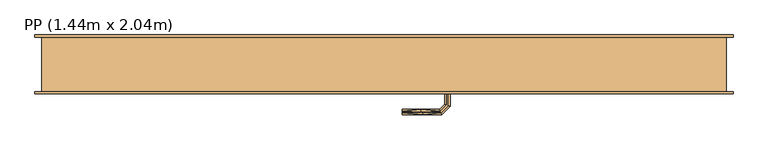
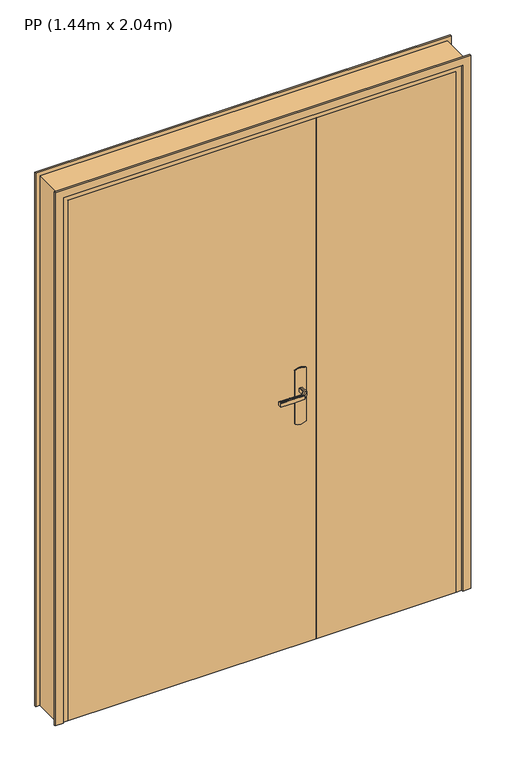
"""IFC4 building model written with IfcOpenShell, lengths in millimetres: door geometry, PP (1.44m x 2.04m)."""

from ifc_helpers import new_model, si_unit, frame, origin, origin_with_axes, place, context, project, spatial, polyline, outline, extrude, faceted_brep, source, transform, mapped, element, save


def pp_1_44m_x_2_04m_0dcc9849(model_context):
    return source(origin(), model_context, "Body", "SolidModel", [
        extrude(outline(polyline([(0.0, -15.0), (0.0, 15.0), (2060.0, 15.0), (2060.0, 1495.0), (0.0, 1495.0), (0.0, 1525.0), (2090.0, 1525.0), (2090.0, -15.0), (0.0, -15.0)])), frame((0.0, -5.0, 0.0), z_axis=(0.0, 1.0, 0.0), x_axis=(0.0, 0.0, 1.0)), (0.0, 0.0, 1.0), 5.0),
        faceted_brep([(892.9747013, 45.0, 992.2195592), (897.0252987, 45.0, 992.2195592), (901.0, 45.0, 993.0), (901.0, 45.0, 1007.0), (897.0252987, 45.0, 1007.7804408), (892.9747013, 45.0, 1007.7804408), (889.0, 45.0, 1007.0), (889.0, 45.0, 993.0), (889.0, 67.4852045, 1007.0), (889.0, 67.4852045, 993.0), (892.9747013, 69.1315797, 1007.7804408), (897.0252987, 70.8093921, 1007.7804408), (880.8389062, 86.9957845, 1007.7804408), (879.1610938, 82.9451872, 1007.7804408), (901.0, 72.4557673, 1007.0), (901.0, 72.4557673, 993.0), (897.0252987, 70.8093921, 992.2195592), (892.9747013, 69.1315797, 992.2195592), (879.1610938, 82.9451872, 992.2195592), (880.8389062, 86.9957845, 992.2195592), (877.5147186, 78.9704859, 1007.0), (877.5147186, 78.9704859, 993.0), (882.4852814, 90.9704859, 1007.0), (882.4852814, 90.9704859, 993.0), (794.9542163, 82.9451872, 1007.7804408), (794.9542163, 86.9957845, 1007.7804408), (794.9542163, 90.9704859, 1007.0), (794.9542163, 90.9704859, 993.0), (794.9542163, 86.9957845, 992.2195592), (794.9542163, 82.9451872, 992.2195592), (794.9542163, 78.9704859, 993.0), (794.9542163, 78.9704859, 1007.0), (836.2344675, 78.9704859, 1007.0), (836.2344794, 78.9704859, 993.0), (837.0576551, 84.9704859, 1007.8786868), (842.5547942, 90.9704859, 1007.0), (842.5547957, 90.9704859, 993.0), (837.0576549, 84.9704858, 992.1213132)], [[[0, 1, 2, 3, 4, 5, 6, 7]], [[8, 9, 7, 6]], [[5, 10, 8, 6]], [[5, 4, 11, 12, 13, 10]], [[3, 14, 11, 4]], [[14, 3, 2, 15]], [[2, 1, 16, 15]], [[1, 0, 17, 18, 19, 16]], [[0, 7, 9, 17]], [[20, 21, 9, 8]], [[8, 10, 13, 20]], [[14, 22, 12, 11]], [[23, 22, 14, 15]], [[15, 16, 19, 23]], [[17, 9, 21, 18]], [[24, 25, 26, 27, 28, 29, 30, 31]], [[21, 20, 32, 31, 30, 33]], [[34, 24, 32]], [[25, 34, 35]], [[13, 32, 20]], [[24, 31, 32]], [[25, 35, 26]], [[35, 12, 22]], [[34, 12, 35]], [[34, 13, 12]], [[34, 32, 13]], [[24, 34, 25]], [[22, 23, 36, 27, 26, 35]], [[37, 28, 36]], [[36, 28, 27]], [[36, 23, 19]], [[18, 33, 37]], [[33, 18, 21]], [[30, 29, 33]], [[37, 29, 28]], [[37, 33, 29]], [[37, 36, 19]], [[18, 37, 19]]]),
        extrude(outline(polyline([(0.0, -15.0), (0.0, 15.0), (2060.0, 15.0), (2060.0, 1495.0), (0.0, 1495.0), (0.0, 1525.0), (2090.0, 1525.0), (2090.0, -15.0), (0.0, -15.0)])), frame((0.0, 120.0, 0.0), z_axis=(0.0, 1.0, 0.0), x_axis=(0.0, 0.0, 1.0)), (0.0, 0.0, 1.0), 5.0),
        faceted_brep([(0.0, 0.0, 0.0), (0.0, 120.0, 0.0), (50.0, 120.0, 0.0), (50.0, 40.0, 0.0), (35.0, 40.0, 0.0), (35.0, 0.0, 0.0), (0.0, 0.0, 2075.0), (0.0, 120.0, 2075.0), (1510.0, 120.0, 2075.0), (1510.0, 120.0, 0.0), (1460.0, 120.0, 0.0), (1460.0, 120.0, 2025.0), (50.0, 120.0, 2025.0), (50.0, 40.0, 2025.0), (1460.0, 40.0, 2025.0), (1460.0, 40.0, 0.0), (1475.0, 40.0, 0.0), (1475.0, 40.0, 2040.0), (35.0, 40.0, 2040.0), (35.0, 0.0, 2040.0), (1475.0, 0.0, 2040.0), (1475.0, 0.0, 0.0), (1510.0, 0.0, 0.0), (1510.0, 0.0, 2075.0)], [[[0, 1, 2, 3, 4, 5]], [[1, 0, 6, 7]], [[2, 1, 7, 8, 9, 10, 11, 12]], [[3, 2, 12, 13]], [[4, 3, 13, 14, 15, 16, 17, 18]], [[5, 4, 18, 19]], [[0, 5, 19, 20, 21, 22, 23, 6]], [[8, 23, 22, 9]], [[22, 21, 16, 15, 10, 9]], [[14, 11, 10, 15]], [[20, 17, 16, 21]], [[7, 6, 23, 8]], [[13, 12, 11, 14]], [[19, 18, 17, 20]]]),
        extrude(outline(polyline([(870.0, 915.0), (1080.0, 915.0), (1083.9960169, 905.3527618), (1085.3589838, 895.0), (1083.9960169, 884.6472382), (1080.0, 875.0), (870.0, 875.0), (866.0039831, 884.6472382), (864.6410162, 895.0), (866.0039831, 905.3527618), (870.0, 915.0)])), frame((0.0, -5.0, 0.0), z_axis=(0.0, 1.0, 0.0), x_axis=(0.0, 0.0, 1.0)), (0.0, 0.0, 1.0), 5.0),
        extrude(outline(polyline([(955.0, 40.0), (955.0, 0.0), (35.0, 0.0), (35.0, 40.0), (955.0, 40.0)])), origin_with_axes(), (0.0, 0.0, 1.0), 2040.0),
        extrude(outline(polyline([(870.0, 915.0), (1080.0, 915.0), (1083.9960169, 905.3527618), (1085.3589838, 895.0), (1083.9960169, 884.6472382), (1080.0, 875.0), (870.0, 875.0), (866.0039831, 884.6472382), (864.6410162, 895.0), (866.0039831, 905.3527618), (870.0, 915.0)])), frame((0.0, 40.0, 0.0), z_axis=(0.0, 1.0, 0.0), x_axis=(0.0, 0.0, 1.0)), (0.0, 0.0, 1.0), 5.0),
        extrude(outline(polyline([(1475.0, 0.0), (955.0, 0.0), (955.0, 40.0), (1475.0, 40.0), (1475.0, 0.0)])), origin_with_axes(), (0.0, 0.0, 1.0), 2040.0),
        faceted_brep([(892.9747013, -5.0, 1007.7804408), (897.0252987, -5.0, 1007.7804408), (901.0, -5.0, 1007.0), (901.0, -5.0, 993.0), (897.0252987, -5.0, 992.2195592), (892.9747013, -5.0, 992.2195592), (889.0, -5.0, 993.0), (889.0, -5.0, 1007.0), (897.0252987, -31.0045755, 1007.7804408), (901.0, -32.6509507, 1007.0), (892.9747013, -29.3267632, 1007.7804408), (879.2986025, -43.002862, 1007.7804408), (880.9764148, -47.0534593, 1007.7804408), (889.0, -27.680388, 1007.0), (889.0, -27.680388, 993.0), (892.9747013, -29.3267632, 992.2195592), (897.0252987, -31.0045755, 992.2195592), (880.9764148, -47.0534593, 992.2195592), (879.2986025, -43.002862, 992.2195592), (901.0, -32.6509507, 993.0), (882.62279, -51.0281607, 1007.0), (877.6522273, -39.0281607, 1007.0), (877.6522273, -39.0281607, 993.0), (882.62279, -51.0281607, 993.0), (794.9813594, -51.0281607, 1007.0), (794.9813594, -47.0534593, 1007.7804408), (794.9813594, -43.002862, 1007.7804408), (794.9813594, -39.0281607, 1007.0), (794.9813594, -39.0281607, 993.0), (794.9813594, -43.002862, 992.2195592), (794.9813594, -47.0534593, 992.2195592), (794.9813594, -51.0281607, 993.0), (837.1399809, -45.0281607, 1007.8786868), (842.6923028, -51.0281607, 1007.0), (836.3167933, -39.0281607, 1007.0), (836.3167933, -39.0281607, 993.0), (837.1399811, -45.0281608, 992.1213132), (842.6923104, -51.0281607, 993.0)], [[[0, 1, 2, 3, 4, 5, 6, 7]], [[2, 1, 8, 9]], [[1, 0, 10, 11, 12, 8]], [[0, 7, 13, 10]], [[14, 13, 7, 6]], [[5, 15, 14, 6]], [[5, 4, 16, 17, 18, 15]], [[3, 19, 16, 4]], [[9, 19, 3, 2]], [[9, 8, 12, 20]], [[10, 13, 21, 11]], [[22, 21, 13, 14]], [[14, 15, 18, 22]], [[16, 19, 23, 17]], [[20, 23, 19, 9]], [[24, 25, 26, 27, 28, 29, 30, 31]], [[32, 25, 33]], [[33, 25, 24]], [[33, 20, 12]], [[11, 34, 32]], [[34, 11, 21]], [[27, 26, 34]], [[32, 26, 25]], [[32, 34, 26]], [[32, 33, 12]], [[11, 32, 12]], [[21, 22, 35, 28, 27, 34]], [[36, 29, 35]], [[30, 36, 37]], [[18, 35, 22]], [[29, 28, 35]], [[30, 37, 31]], [[37, 17, 23]], [[36, 17, 37]], [[36, 18, 17]], [[36, 35, 18]], [[29, 36, 30]], [[23, 20, 33, 24, 31, 37]]]),
    ])


if __name__ == "__main__":
    model = new_model("IFC4")
    model_context = context("Model", 3, world=origin())
    ifc_project = project(units=[si_unit("LENGTHUNIT", "METRE", prefix="MILLI")], contexts=[model_context])
    site = spatial("IfcSite", under=ifc_project)
    building = spatial("IfcBuilding", under=site)
    placement = place(None, origin())
    pp_1_44m_x_2_04m_shape = pp_1_44m_x_2_04m_0dcc9849(model_context)
    element("IfcDoor", 1, ObjectType="PP (1.44m x 2.04m)", at=placement, inside=building, context=model_context, shape_type="MappedRepresentation", body=[
        mapped(pp_1_44m_x_2_04m_shape, transform((0.0, 0.0, 0.0), x_axis=(1.0, 0.0, 0.0), y_axis=(0.0, 1.0, 0.0), z_axis=(0.0, 0.0, 1.0))),
    ])
    save(model, "model.ifc")
